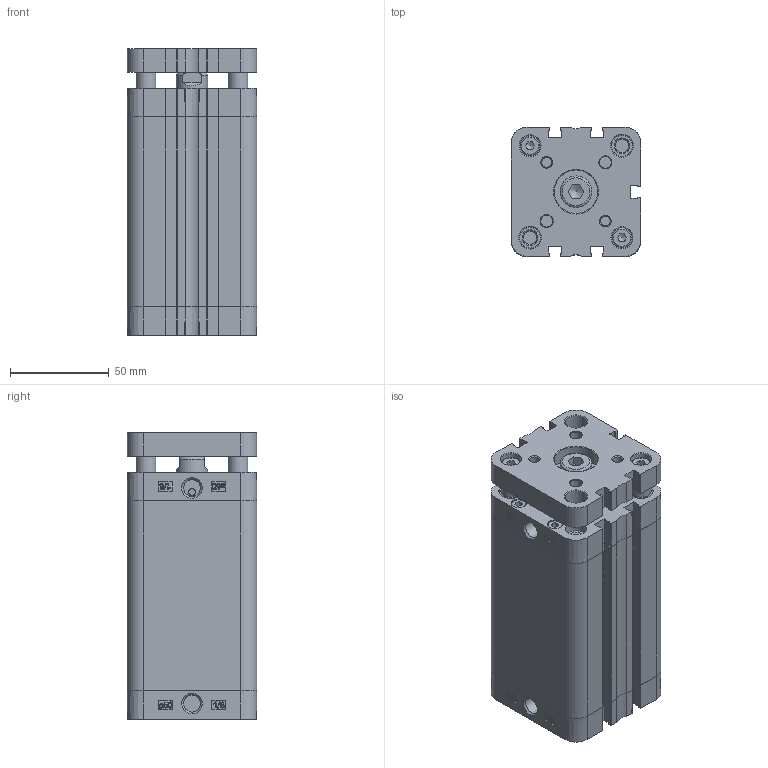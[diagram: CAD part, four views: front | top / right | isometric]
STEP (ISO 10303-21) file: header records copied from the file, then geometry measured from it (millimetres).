
FILE_DESCRIPTION(/* description */ ('Unknown'),/* implementation_level */ '2;1');
FILE_NAME(/* name */ 'ZINT 50_80',/* time_stamp */ '2024-11-12T08:42:25+01:00',/* author */ ('Unknown'),/* organization */ ('HAFNER Pneumatika Kft.'),/* preprocessor_version */ 'ST-DEVELOPER v18.102',/* originating_system */ 'Solid Edge',/* authorisation */ 'Unknown');
FILE_SCHEMA (('AUTOMOTIVE_DESIGN {1 0 10303 214 3 1 1}'));
Length unit declared in the file: millimetre
Products named in the file (7): ZINT 50_80; Führungsstange; Profilrohr; Platte; Kolbenstange; Kit_2; Kit_1
Assembly tree (7 placements, depth 2):
  ZINT 50_80
    Führungsstange  x2
    Profilrohr
    Platte
    Kolbenstange
    Kit_2
    Kit_1
Bounding box: 65.5 x 65.5 x 145 mm (x, y, z)
Volume: 414967.7 mm3; surface area: 115546.2 mm2
Topology: 7 solids, 17 shells, 914 faces, 2414 edges, 1592 vertices
Faces by surface type: plane 417, cylinder 274, bspline 108, cone 69, torus 46
Full cylindrical faces by diameter (mm): 3.5 x1, 4.917 x4, 5.2 x8, 6 x2, 6.647 x6, 7.3 x2, 7.5 x8, 7.7 x8, 8.376 x1, 8.566 x2, 10 x4, 10.5 x8, 11 x2, 12 x3, 16 x2, 16.54 x1, 17.7 x1, 18 x1, 22 x1, 50 x2
Entity records: 33788 total; most frequent: CARTESIAN_POINT 6722, ORIENTED_EDGE 4400, DIRECTION 4190, EDGE_CURVE 2200, VERTEX_POINT 1525, AXIS2_PLACEMENT_3D 1461, LINE 1268, VECTOR 1268
